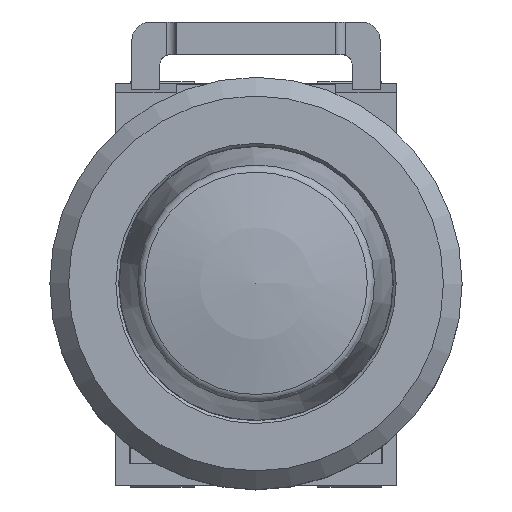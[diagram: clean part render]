
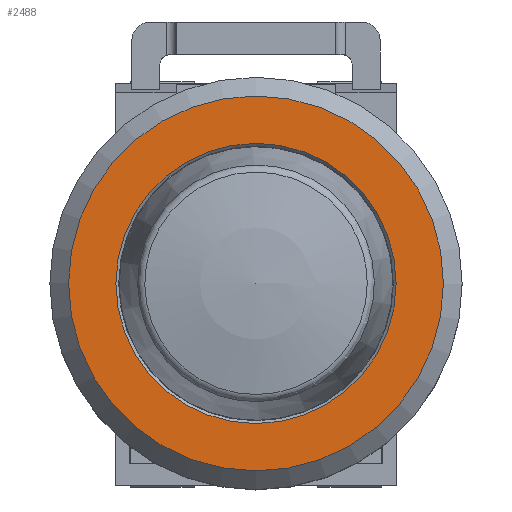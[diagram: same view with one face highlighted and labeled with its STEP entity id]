
A CAD part, top view. The second image highlights one B-rep face of the part: STEP entity #2488.
In plain terms, the highlighted planar face has unit normal (0, 0, 1).
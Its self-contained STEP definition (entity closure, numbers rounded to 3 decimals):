
#2437=CARTESIAN_POINT('',(14.95,-0.022,23.9));
#2438=VERTEX_POINT('',#2437);
#2439=CARTESIAN_POINT('',(0.0,0.0,23.9));
#2440=DIRECTION('',(0.0,0.0,1.0));
#2441=DIRECTION('',(-1.,0.001,0.0));
#2442=AXIS2_PLACEMENT_3D('',#2439,#2440,#2441);
#2443=CIRCLE('',#2442,14.95);
#2444=EDGE_CURVE('',#2438,#2438,#2443,.T.);
#2469=CARTESIAN_POINT('',(0.0,0.0,23.9));
#2470=DIRECTION('',(0.0,0.0,-1.0));
#2471=DIRECTION('',(-1.,0.001,0.0));
#2472=AXIS2_PLACEMENT_3D('',#2469,#2470,#2471);
#2473=PLANE('',#2472);
#2474=CARTESIAN_POINT('',(20.,-0.03,23.9));
#2475=VERTEX_POINT('',#2474);
#2476=CARTESIAN_POINT('',(0.0,0.0,23.9));
#2477=DIRECTION('',(0.0,0.0,-1.0));
#2478=DIRECTION('',(-1.,0.001,0.0));
#2479=AXIS2_PLACEMENT_3D('',#2476,#2477,#2478);
#2480=CIRCLE('',#2479,20.0);
#2481=EDGE_CURVE('',#2475,#2475,#2480,.T.);
#2482=ORIENTED_EDGE('',*,*,#2481,.F.);
#2483=EDGE_LOOP('',(#2482));
#2484=FACE_OUTER_BOUND('',#2483,.T.);
#2485=ORIENTED_EDGE('',*,*,#2444,.F.);
#2486=EDGE_LOOP('',(#2485));
#2487=FACE_BOUND('',#2486,.T.);
#2488=ADVANCED_FACE('',(#2484,#2487),#2473,.F.);
